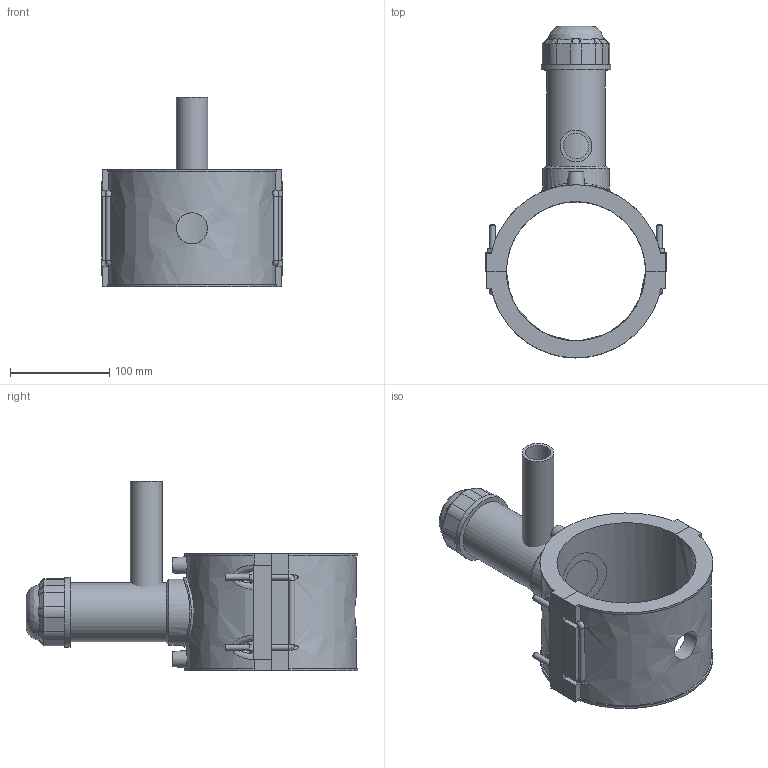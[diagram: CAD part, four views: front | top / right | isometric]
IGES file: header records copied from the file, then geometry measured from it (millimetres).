
Global section: file name: 4963P4140032; native system: Autodesk Inventor 2019; preprocessor: unknown; author: KIM; date: 20220317.112913; units: millimetre
Bounding box: 182 x 334.11 x 191 mm (x, y, z)
Volume: 1264958.2 mm3; surface area: 242567.9 mm2
Topology: 3 solids, 5 shells, 217 faces, 549 edges, 349 vertices
Faces by surface type: bspline 217
